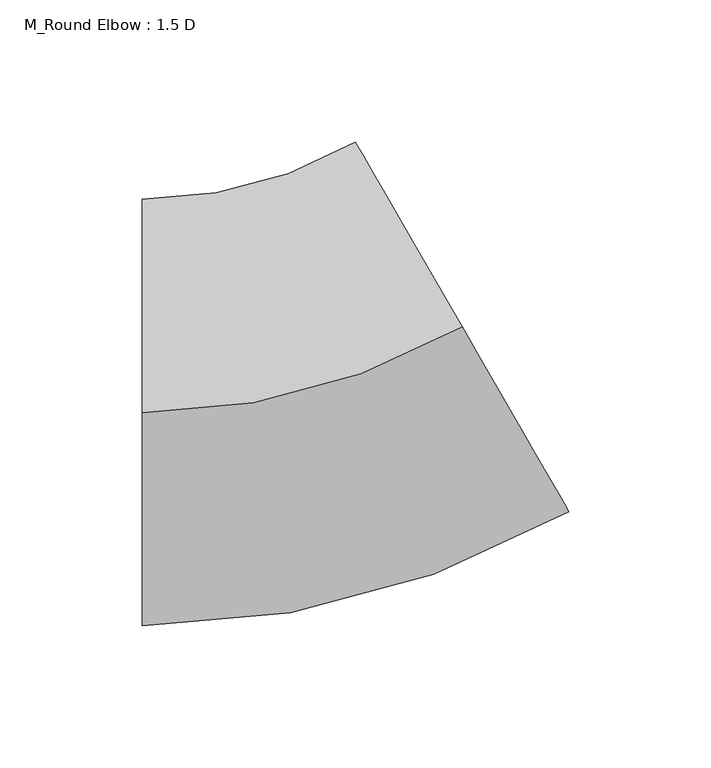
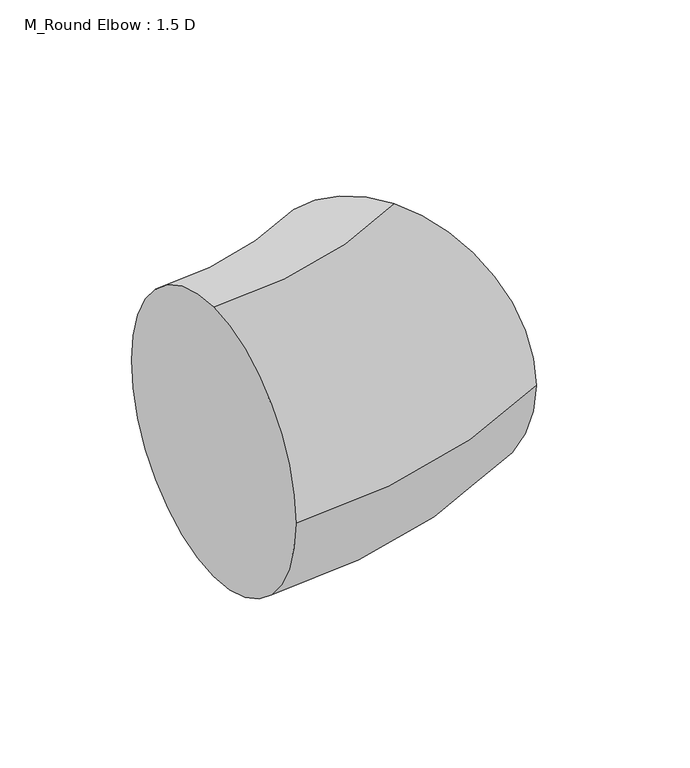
"""IFC4 building model written with IfcOpenShell, lengths in millimetres: duct fitting geometry, M_Round Elbow : 1.5 D."""

from ifc_helpers import new_model, si_unit, point, frame, origin, place, context, project, spatial, circle_curve, ellipse_curve, trimmed, source, transform, mapped, element, save
from ifc_brep_helpers import plane_surface, revolved_surface, advanced_brep


def m_round_elbow_1_5_d_5294a869(model_context):
    return source(origin(), model_context, "Body", "AdvancedBrep", [
        advanced_brep(
        [(-60.2885683, 0.0, 75.0), (-60.2885683, 75.0, 0.0), (-60.2885683, 0.0, -75.0), (-60.2885683, -75.0, 0.0), (52.2114317, 30.1442841, 75.0), (89.7114317, -34.8076211, 0.0), (52.2114317, 30.1442841, -75.0), (14.7114317, 95.0961894, 0.0)],
        [
            (0, 1, circle_curve(frame((-60.2885683, 0.0, 0.0), z_axis=(-1.0, 0.0, 0.0), x_axis=(0.0, 1.0, 0.0)), 75.0)),
            (1, 2, circle_curve(frame((-60.2885683, 0.0, 0.0), z_axis=(-1.0, 0.0, 0.0), x_axis=(0.0, 1.0, 0.0)), 75.0)),
            (2, 3, circle_curve(frame((-60.2885683, 0.0, 0.0), z_axis=(-1.0, 0.0, 0.0), x_axis=(0.0, 1.0, 0.0)), 75.0)),
            (3, 0, circle_curve(frame((-60.2885683, 0.0, 0.0), z_axis=(-1.0, 0.0, 0.0), x_axis=(0.0, 1.0, 0.0)), 75.0)),
            (4, 5, circle_curve(frame((52.2114317, 30.1442841, 0.0), z_axis=(0.8660254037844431, 0.49999999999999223, 0.0), x_axis=(-0.49999999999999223, 0.8660254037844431, 0.0)), 75.0)),
            (5, 6, circle_curve(frame((52.2114317, 30.1442841, 0.0), z_axis=(0.8660254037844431, 0.49999999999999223, 0.0), x_axis=(-0.49999999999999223, 0.8660254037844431, 0.0)), 75.0)),
            (6, 7, circle_curve(frame((52.2114317, 30.1442841, 0.0), z_axis=(0.8660254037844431, 0.49999999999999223, 0.0), x_axis=(-0.49999999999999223, 0.8660254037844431, 0.0)), 75.0)),
            (7, 4, circle_curve(frame((52.2114317, 30.1442841, 0.0), z_axis=(0.8660254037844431, 0.49999999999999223, 0.0), x_axis=(-0.49999999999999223, 0.8660254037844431, 0.0)), 75.0)),
            (7, 1, circle_curve(frame((-60.2885683, 225.0, 0.0), z_axis=(0.0, 0.0, -1.0), x_axis=(0.0, -1.0, 0.0)), 150.0)),
            (0, 4, circle_curve(frame((-60.2885683, 225.0, 75.0), z_axis=(0.0, 0.0, 1.0), x_axis=(0.0, -1.0, 0.0)), 225.0)),
            (6, 2, circle_curve(frame((-60.2885683, 225.0, -75.0), z_axis=(0.0, 0.0, -1.0), x_axis=(0.0, -1.0, 0.0)), 225.0)),
            (5, 3, circle_curve(frame((-60.2885683, 225.0, 0.0), z_axis=(0.0, 0.0, -1.0), x_axis=(0.0, -1.0, 0.0)), 300.0)),
        ],
        [
            plane_surface(frame((-60.2885683, 0.0, 0.0), z_axis=(-1.0, 0.0, 0.0), x_axis=(0.0, 0.0, 1.0))),
            plane_surface(frame((52.2114317, 30.1442841, 0.0), z_axis=(0.8660254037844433, 0.4999999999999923, 0.0), x_axis=(0.0, 0.0, 1.0))),
            revolved_surface(trimmed(ellipse_curve(frame((-60.2885683, 0.0, 0.0), z_axis=(-1.0, 0.0, 0.0), x_axis=(0.0, 1.0, 0.0)), 75.0, 75.0), [point((-60.2885683, 0.0, 75.0))], [point((-60.2885683, 75.0, 0.0))], True, "CARTESIAN"), (-60.2885683, 225.0, 0.0), (0.0, 0.0, 1.0)),
            revolved_surface(trimmed(ellipse_curve(frame((-60.2885683, 0.0, 0.0), z_axis=(-1.0, 0.0, 0.0), x_axis=(0.0, 1.0, 0.0)), 75.0, 75.0), [point((-60.2885683, 75.0, 0.0))], [point((-60.2885683, 0.0, -75.0))], True, "CARTESIAN"), (-60.2885683, 225.0, 0.0), (0.0, 0.0, 1.0)),
            revolved_surface(trimmed(ellipse_curve(frame((-60.2885683, 0.0, 0.0), z_axis=(-1.0, 0.0, 0.0), x_axis=(0.0, 1.0, 0.0)), 75.0, 75.0), [point((-60.2885683, 0.0, -75.0))], [point((-60.2885683, -75.0, 0.0))], True, "CARTESIAN"), (-60.2885683, 225.0, 0.0), (0.0, 0.0, 1.0)),
            revolved_surface(trimmed(ellipse_curve(frame((-60.2885683, 0.0, 0.0), z_axis=(-1.0, 0.0, 0.0), x_axis=(0.0, 1.0, 0.0)), 75.0, 75.0), [point((-60.2885683, -75.0, 0.0))], [point((-60.2885683, 0.0, 75.0))], True, "CARTESIAN"), (-60.2885683, 225.0, 0.0), (0.0, 0.0, 1.0)),
        ],
        [
            (0, [[1, 2, 3, 4]]),
            (1, [[5, 6, 7, 8]]),
            (2, [[9, -1, 10, -8]]),
            (3, [[11, -2, -9, -7]]),
            (4, [[12, -3, -11, -6]]),
            (5, [[-10, -4, -12, -5]]),
        ],
    ),
        advanced_brep(
        [(-60.2885683, 0.0, 75.0), (-60.2885683, 75.0, 0.0), (-60.2885683, 0.0, -75.0), (-60.2885683, -75.0, 0.0), (52.2114317, 30.1442841, 75.0), (89.7114317, -34.8076211, 0.0), (52.2114317, 30.1442841, -75.0), (14.7114317, 95.0961894, 0.0)],
        [
            (0, 1, circle_curve(frame((-60.2885683, 0.0, 0.0), z_axis=(-1.0, 0.0, 0.0), x_axis=(0.0, 1.0, 0.0)), 75.0)),
            (1, 2, circle_curve(frame((-60.2885683, 0.0, 0.0), z_axis=(-1.0, 0.0, 0.0), x_axis=(0.0, 1.0, 0.0)), 75.0)),
            (2, 3, circle_curve(frame((-60.2885683, 0.0, 0.0), z_axis=(-1.0, 0.0, 0.0), x_axis=(0.0, 1.0, 0.0)), 75.0)),
            (3, 0, circle_curve(frame((-60.2885683, 0.0, 0.0), z_axis=(-1.0, 0.0, 0.0), x_axis=(0.0, 1.0, 0.0)), 75.0)),
            (4, 5, circle_curve(frame((52.2114317, 30.1442841, 0.0), z_axis=(0.8660254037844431, 0.49999999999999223, 0.0), x_axis=(-0.49999999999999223, 0.8660254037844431, 0.0)), 75.0)),
            (5, 6, circle_curve(frame((52.2114317, 30.1442841, 0.0), z_axis=(0.8660254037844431, 0.49999999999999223, 0.0), x_axis=(-0.49999999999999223, 0.8660254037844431, 0.0)), 75.0)),
            (6, 7, circle_curve(frame((52.2114317, 30.1442841, 0.0), z_axis=(0.8660254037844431, 0.49999999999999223, 0.0), x_axis=(-0.49999999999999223, 0.8660254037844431, 0.0)), 75.0)),
            (7, 4, circle_curve(frame((52.2114317, 30.1442841, 0.0), z_axis=(0.8660254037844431, 0.49999999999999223, 0.0), x_axis=(-0.49999999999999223, 0.8660254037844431, 0.0)), 75.0)),
            (7, 1, circle_curve(frame((-60.2885683, 225.0, 0.0), z_axis=(0.0, 0.0, -1.0), x_axis=(0.0, -1.0, 0.0)), 150.0)),
            (0, 4, circle_curve(frame((-60.2885683, 225.0, 75.0), z_axis=(0.0, 0.0, 1.0), x_axis=(0.0, -1.0, 0.0)), 225.0)),
            (6, 2, circle_curve(frame((-60.2885683, 225.0, -75.0), z_axis=(0.0, 0.0, -1.0), x_axis=(0.0, -1.0, 0.0)), 225.0)),
            (5, 3, circle_curve(frame((-60.2885683, 225.0, 0.0), z_axis=(0.0, 0.0, -1.0), x_axis=(0.0, -1.0, 0.0)), 300.0)),
        ],
        [
            plane_surface(frame((-60.2885683, 0.0, 0.0), z_axis=(-1.0, 0.0, 0.0), x_axis=(0.0, 0.0, 1.0))),
            plane_surface(frame((52.2114317, 30.1442841, 0.0), z_axis=(0.8660254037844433, 0.4999999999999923, 0.0), x_axis=(0.0, 0.0, 1.0))),
            revolved_surface(trimmed(ellipse_curve(frame((-60.2885683, 0.0, 0.0), z_axis=(-1.0, 0.0, 0.0), x_axis=(0.0, 1.0, 0.0)), 75.0, 75.0), [point((-60.2885683, 0.0, 75.0))], [point((-60.2885683, 75.0, 0.0))], True, "CARTESIAN"), (-60.2885683, 225.0, 0.0), (0.0, 0.0, 1.0)),
            revolved_surface(trimmed(ellipse_curve(frame((-60.2885683, 0.0, 0.0), z_axis=(-1.0, 0.0, 0.0), x_axis=(0.0, 1.0, 0.0)), 75.0, 75.0), [point((-60.2885683, 75.0, 0.0))], [point((-60.2885683, 0.0, -75.0))], True, "CARTESIAN"), (-60.2885683, 225.0, 0.0), (0.0, 0.0, 1.0)),
            revolved_surface(trimmed(ellipse_curve(frame((-60.2885683, 0.0, 0.0), z_axis=(-1.0, 0.0, 0.0), x_axis=(0.0, 1.0, 0.0)), 75.0, 75.0), [point((-60.2885683, 0.0, -75.0))], [point((-60.2885683, -75.0, 0.0))], True, "CARTESIAN"), (-60.2885683, 225.0, 0.0), (0.0, 0.0, 1.0)),
            revolved_surface(trimmed(ellipse_curve(frame((-60.2885683, 0.0, 0.0), z_axis=(-1.0, 0.0, 0.0), x_axis=(0.0, 1.0, 0.0)), 75.0, 75.0), [point((-60.2885683, -75.0, 0.0))], [point((-60.2885683, 0.0, 75.0))], True, "CARTESIAN"), (-60.2885683, 225.0, 0.0), (0.0, 0.0, 1.0)),
        ],
        [
            (0, [[1, 2, 3, 4]]),
            (1, [[5, 6, 7, 8]]),
            (2, [[9, -1, 10, -8]]),
            (3, [[11, -2, -9, -7]]),
            (4, [[12, -3, -11, -6]]),
            (5, [[-10, -4, -12, -5]]),
        ],
    ),
        advanced_brep(
        [(-60.2885683, 0.0, 75.0), (-60.2885683, 75.0, 0.0), (-60.2885683, 0.0, -75.0), (-60.2885683, -75.0, 0.0), (52.2114317, 30.1442841, 75.0), (89.7114317, -34.8076211, 0.0), (52.2114317, 30.1442841, -75.0), (14.7114317, 95.0961894, 0.0)],
        [
            (0, 1, circle_curve(frame((-60.2885683, 0.0, 0.0), z_axis=(-1.0, 0.0, 0.0), x_axis=(0.0, 1.0, 0.0)), 75.0)),
            (1, 2, circle_curve(frame((-60.2885683, 0.0, 0.0), z_axis=(-1.0, 0.0, 0.0), x_axis=(0.0, 1.0, 0.0)), 75.0)),
            (2, 3, circle_curve(frame((-60.2885683, 0.0, 0.0), z_axis=(-1.0, 0.0, 0.0), x_axis=(0.0, 1.0, 0.0)), 75.0)),
            (3, 0, circle_curve(frame((-60.2885683, 0.0, 0.0), z_axis=(-1.0, 0.0, 0.0), x_axis=(0.0, 1.0, 0.0)), 75.0)),
            (4, 5, circle_curve(frame((52.2114317, 30.1442841, 0.0), z_axis=(0.8660254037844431, 0.49999999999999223, 0.0), x_axis=(-0.49999999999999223, 0.8660254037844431, 0.0)), 75.0)),
            (5, 6, circle_curve(frame((52.2114317, 30.1442841, 0.0), z_axis=(0.8660254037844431, 0.49999999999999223, 0.0), x_axis=(-0.49999999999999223, 0.8660254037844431, 0.0)), 75.0)),
            (6, 7, circle_curve(frame((52.2114317, 30.1442841, 0.0), z_axis=(0.8660254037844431, 0.49999999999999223, 0.0), x_axis=(-0.49999999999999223, 0.8660254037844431, 0.0)), 75.0)),
            (7, 4, circle_curve(frame((52.2114317, 30.1442841, 0.0), z_axis=(0.8660254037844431, 0.49999999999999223, 0.0), x_axis=(-0.49999999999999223, 0.8660254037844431, 0.0)), 75.0)),
            (7, 1, circle_curve(frame((-60.2885683, 225.0, 0.0), z_axis=(0.0, 0.0, -1.0), x_axis=(0.0, -1.0, 0.0)), 150.0)),
            (0, 4, circle_curve(frame((-60.2885683, 225.0, 75.0), z_axis=(0.0, 0.0, 1.0), x_axis=(0.0, -1.0, 0.0)), 225.0)),
            (6, 2, circle_curve(frame((-60.2885683, 225.0, -75.0), z_axis=(0.0, 0.0, -1.0), x_axis=(0.0, -1.0, 0.0)), 225.0)),
            (5, 3, circle_curve(frame((-60.2885683, 225.0, 0.0), z_axis=(0.0, 0.0, -1.0), x_axis=(0.0, -1.0, 0.0)), 300.0)),
        ],
        [
            plane_surface(frame((-60.2885683, 0.0, 0.0), z_axis=(-1.0, 0.0, 0.0), x_axis=(0.0, 0.0, 1.0))),
            plane_surface(frame((52.2114317, 30.1442841, 0.0), z_axis=(0.8660254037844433, 0.4999999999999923, 0.0), x_axis=(0.0, 0.0, 1.0))),
            revolved_surface(trimmed(ellipse_curve(frame((-60.2885683, 0.0, 0.0), z_axis=(-1.0, 0.0, 0.0), x_axis=(0.0, 1.0, 0.0)), 75.0, 75.0), [point((-60.2885683, 0.0, 75.0))], [point((-60.2885683, 75.0, 0.0))], True, "CARTESIAN"), (-60.2885683, 225.0, 0.0), (0.0, 0.0, 1.0)),
            revolved_surface(trimmed(ellipse_curve(frame((-60.2885683, 0.0, 0.0), z_axis=(-1.0, 0.0, 0.0), x_axis=(0.0, 1.0, 0.0)), 75.0, 75.0), [point((-60.2885683, 75.0, 0.0))], [point((-60.2885683, 0.0, -75.0))], True, "CARTESIAN"), (-60.2885683, 225.0, 0.0), (0.0, 0.0, 1.0)),
            revolved_surface(trimmed(ellipse_curve(frame((-60.2885683, 0.0, 0.0), z_axis=(-1.0, 0.0, 0.0), x_axis=(0.0, 1.0, 0.0)), 75.0, 75.0), [point((-60.2885683, 0.0, -75.0))], [point((-60.2885683, -75.0, 0.0))], True, "CARTESIAN"), (-60.2885683, 225.0, 0.0), (0.0, 0.0, 1.0)),
            revolved_surface(trimmed(ellipse_curve(frame((-60.2885683, 0.0, 0.0), z_axis=(-1.0, 0.0, 0.0), x_axis=(0.0, 1.0, 0.0)), 75.0, 75.0), [point((-60.2885683, -75.0, 0.0))], [point((-60.2885683, 0.0, 75.0))], True, "CARTESIAN"), (-60.2885683, 225.0, 0.0), (0.0, 0.0, 1.0)),
        ],
        [
            (0, [[1, 2, 3, 4]]),
            (1, [[5, 6, 7, 8]]),
            (2, [[9, -1, 10, -8]]),
            (3, [[11, -2, -9, -7]]),
            (4, [[12, -3, -11, -6]]),
            (5, [[-10, -4, -12, -5]]),
        ],
    ),
    ])


if __name__ == "__main__":
    model = new_model("IFC4")
    model_context = context("Model", 3, world=origin())
    ifc_project = project(units=[si_unit("LENGTHUNIT", "METRE", prefix="MILLI")], contexts=[model_context])
    site = spatial("IfcSite", under=ifc_project)
    building = spatial("IfcBuilding", under=site)
    placement = place(None, origin())
    m_round_elbow_1_5_d_shape = m_round_elbow_1_5_d_5294a869(model_context)
    element("IfcDuctFitting", 1, ObjectType="M_Round Elbow : 1.5 D", at=placement, inside=building, context=model_context, shape_type="MappedRepresentation", body=[
        mapped(m_round_elbow_1_5_d_shape, transform((0.0, 0.0, 0.0), x_axis=(1.0, 0.0, 0.0), y_axis=(0.0, 1.0, 0.0), z_axis=(0.0, 0.0, 1.0))),
    ])
    save(model, "model.ifc")
